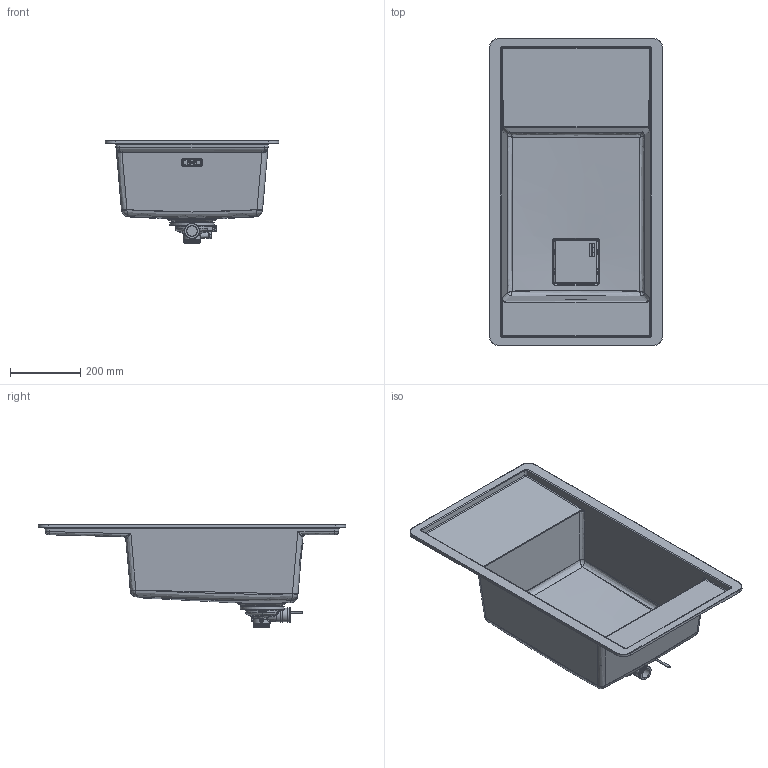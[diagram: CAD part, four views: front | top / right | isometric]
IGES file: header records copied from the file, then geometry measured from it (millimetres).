
Global section: file name: F:\_CONVERSIONE_CAD_2024_2025\_2024\03_3D kits new\Sinks\FRESNO\114.0706.702 3D001_Sinks_Fresno_FSG-611-88\3D001_Sinks_Fresno_FSG-611-88.igs; native system: Rhinoceros ( Jun 11 2024 ); preprocessor: Trout Lake IGES 012 Jun 11 2024; date: 240626.081757; units: millimetre
Bounding box: 494.58 x 876.58 x 295.16 mm (x, y, z)
Surface area: 1645506.5 mm2 (no closed solid volume)
Topology: 0 solids, 0 shells, 1926 faces, 12081 edges, 12027 vertices
Faces by surface type: bspline 1926
